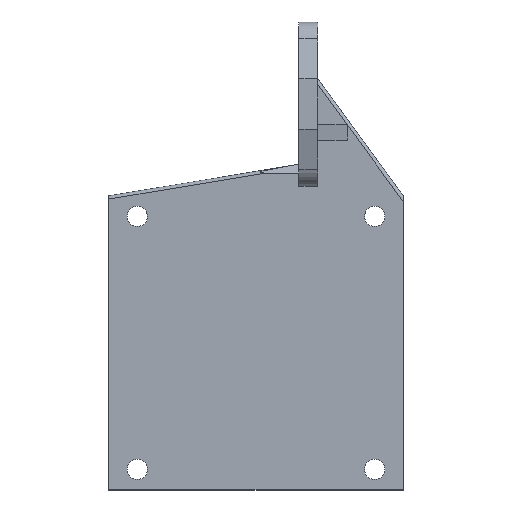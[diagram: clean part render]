
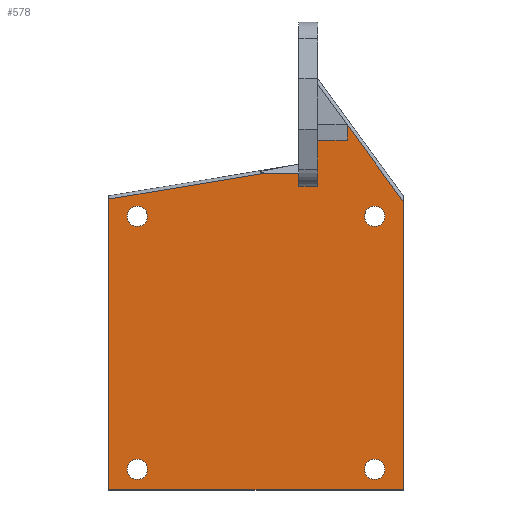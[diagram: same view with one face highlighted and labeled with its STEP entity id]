
A CAD part, top view. The second image highlights one B-rep face of the part: STEP entity #578.
In plain terms, the highlighted planar face has unit normal (0, 0, 1).
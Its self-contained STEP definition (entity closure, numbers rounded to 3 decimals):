
#30=FACE_BOUND('',#94,.T.);
#31=FACE_BOUND('',#95,.T.);
#32=FACE_BOUND('',#96,.T.);
#33=FACE_BOUND('',#97,.T.);
#43=CIRCLE('',#611,1.6);
#44=CIRCLE('',#612,1.6);
#45=CIRCLE('',#613,1.6);
#46=CIRCLE('',#614,1.6);
#63=FACE_OUTER_BOUND('',#93,.T.);
#93=EDGE_LOOP('',(#396,#397,#398,#399,#400,#401,#402,#403,#404,#405,#406));
#94=EDGE_LOOP('',(#407));
#95=EDGE_LOOP('',(#408));
#96=EDGE_LOOP('',(#409));
#97=EDGE_LOOP('',(#410));
#136=LINE('',#836,#196);
#139=LINE('',#843,#199);
#140=LINE('',#845,#200);
#141=LINE('',#847,#201);
#142=LINE('',#849,#202);
#143=LINE('',#851,#203);
#144=LINE('',#853,#204);
#145=LINE('',#855,#205);
#146=LINE('',#856,#206);
#147=LINE('',#858,#207);
#148=LINE('',#859,#208);
#196=VECTOR('',#667,10.);
#199=VECTOR('',#672,10.);
#200=VECTOR('',#673,10.);
#201=VECTOR('',#674,10.);
#202=VECTOR('',#675,10.);
#203=VECTOR('',#676,10.);
#204=VECTOR('',#677,10.);
#205=VECTOR('',#678,10.);
#206=VECTOR('',#679,10.);
#207=VECTOR('',#680,10.);
#208=VECTOR('',#681,10.);
#256=VERTEX_POINT('',#833);
#257=VERTEX_POINT('',#835);
#259=VERTEX_POINT('',#841);
#260=VERTEX_POINT('',#842);
#261=VERTEX_POINT('',#844);
#262=VERTEX_POINT('',#846);
#263=VERTEX_POINT('',#848);
#264=VERTEX_POINT('',#850);
#265=VERTEX_POINT('',#852);
#266=VERTEX_POINT('',#854);
#267=VERTEX_POINT('',#857);
#268=VERTEX_POINT('',#860);
#269=VERTEX_POINT('',#862);
#270=VERTEX_POINT('',#864);
#271=VERTEX_POINT('',#866);
#310=EDGE_CURVE('',#257,#256,#136,.T.);
#313=EDGE_CURVE('',#259,#260,#139,.T.);
#314=EDGE_CURVE('',#261,#260,#140,.T.);
#315=EDGE_CURVE('',#262,#261,#141,.T.);
#316=EDGE_CURVE('',#263,#262,#142,.T.);
#317=EDGE_CURVE('',#263,#264,#143,.T.);
#318=EDGE_CURVE('',#264,#265,#144,.T.);
#319=EDGE_CURVE('',#266,#265,#145,.T.);
#320=EDGE_CURVE('',#266,#257,#146,.T.);
#321=EDGE_CURVE('',#256,#267,#147,.T.);
#322=EDGE_CURVE('',#259,#267,#148,.T.);
#323=EDGE_CURVE('',#268,#268,#43,.T.);
#324=EDGE_CURVE('',#269,#269,#44,.T.);
#325=EDGE_CURVE('',#270,#270,#45,.T.);
#326=EDGE_CURVE('',#271,#271,#46,.T.);
#396=ORIENTED_EDGE('',*,*,#313,.T.);
#397=ORIENTED_EDGE('',*,*,#314,.F.);
#398=ORIENTED_EDGE('',*,*,#315,.F.);
#399=ORIENTED_EDGE('',*,*,#316,.F.);
#400=ORIENTED_EDGE('',*,*,#317,.T.);
#401=ORIENTED_EDGE('',*,*,#318,.T.);
#402=ORIENTED_EDGE('',*,*,#319,.F.);
#403=ORIENTED_EDGE('',*,*,#320,.T.);
#404=ORIENTED_EDGE('',*,*,#310,.T.);
#405=ORIENTED_EDGE('',*,*,#321,.T.);
#406=ORIENTED_EDGE('',*,*,#322,.F.);
#407=ORIENTED_EDGE('',*,*,#323,.F.);
#408=ORIENTED_EDGE('',*,*,#324,.F.);
#409=ORIENTED_EDGE('',*,*,#325,.F.);
#410=ORIENTED_EDGE('',*,*,#326,.F.);
#559=PLANE('',#610);
#578=ADVANCED_FACE('',(#63,#30,#31,#32,#33),#559,.F.);
#610=AXIS2_PLACEMENT_3D('',#840,#670,#671);
#611=AXIS2_PLACEMENT_3D('',#861,#682,#683);
#612=AXIS2_PLACEMENT_3D('',#863,#684,#685);
#613=AXIS2_PLACEMENT_3D('',#865,#686,#687);
#614=AXIS2_PLACEMENT_3D('',#867,#688,#689);
#667=DIRECTION('',(-1.,0.,0.));
#670=DIRECTION('center_axis',(0.,0.,-1.));
#671=DIRECTION('ref_axis',(1.,0.,0.));
#672=DIRECTION('',(-0.986,-0.164,0.));
#673=DIRECTION('',(0.,1.,0.));
#674=DIRECTION('',(-1.,0.,0.));
#675=DIRECTION('',(0.,-1.,0.));
#676=DIRECTION('',(-0.589,0.808,0.));
#677=DIRECTION('',(0.,-1.,0.));
#678=DIRECTION('',(1.,0.,0.));
#679=DIRECTION('',(0.,-1.,0.));
#680=DIRECTION('',(0.,1.,0.));
#681=DIRECTION('',(1.,0.,0.));
#682=DIRECTION('center_axis',(0.,0.,1.));
#683=DIRECTION('ref_axis',(1.,0.,0.));
#684=DIRECTION('center_axis',(0.,0.,1.));
#685=DIRECTION('ref_axis',(1.,0.,0.));
#686=DIRECTION('center_axis',(0.,0.,1.));
#687=DIRECTION('ref_axis',(1.,0.,0.));
#688=DIRECTION('center_axis',(0.,0.,1.));
#689=DIRECTION('ref_axis',(1.,0.,0.));
#833=CARTESIAN_POINT('',(6.75,25.071,2.));
#835=CARTESIAN_POINT('',(9.75,25.071,2.));
#836=CARTESIAN_POINT('',(9.75,25.071,2.));
#840=CARTESIAN_POINT('Origin',(0.,0.,2.));
#841=CARTESIAN_POINT('',(1.454,26.86,2.));
#842=CARTESIAN_POINT('',(-23.25,22.743,2.));
#843=CARTESIAN_POINT('',(-13.742,24.328,2.));
#844=CARTESIAN_POINT('',(-23.25,-23.25,2.));
#845=CARTESIAN_POINT('',(-23.25,-23.25,2.));
#846=CARTESIAN_POINT('',(23.25,-23.25,2.));
#847=CARTESIAN_POINT('',(23.25,-23.25,2.));
#848=CARTESIAN_POINT('',(23.25,22.402,2.));
#849=CARTESIAN_POINT('',(23.25,23.25,2.));
#850=CARTESIAN_POINT('',(14.422,34.5,2.));
#851=CARTESIAN_POINT('',(17.592,30.155,2.));
#852=CARTESIAN_POINT('',(14.422,32.076,2.));
#853=CARTESIAN_POINT('',(14.422,34.5,2.));
#854=CARTESIAN_POINT('',(9.75,32.076,2.));
#855=CARTESIAN_POINT('',(4.875,32.076,2.));
#856=CARTESIAN_POINT('',(9.75,35.125,2.));
#857=CARTESIAN_POINT('',(6.75,26.86,2.));
#858=CARTESIAN_POINT('',(6.75,31.75,2.));
#859=CARTESIAN_POINT('',(3.375,26.86,2.));
#860=CARTESIAN_POINT('',(-20.35,-20.,2.));
#861=CARTESIAN_POINT('Origin',(-18.75,-20.,2.));
#862=CARTESIAN_POINT('',(17.15,-20.,2.));
#863=CARTESIAN_POINT('Origin',(18.75,-20.,2.));
#864=CARTESIAN_POINT('',(17.15,20.,2.));
#865=CARTESIAN_POINT('Origin',(18.75,20.,2.));
#866=CARTESIAN_POINT('',(-20.35,20.,2.));
#867=CARTESIAN_POINT('Origin',(-18.75,20.,2.));
